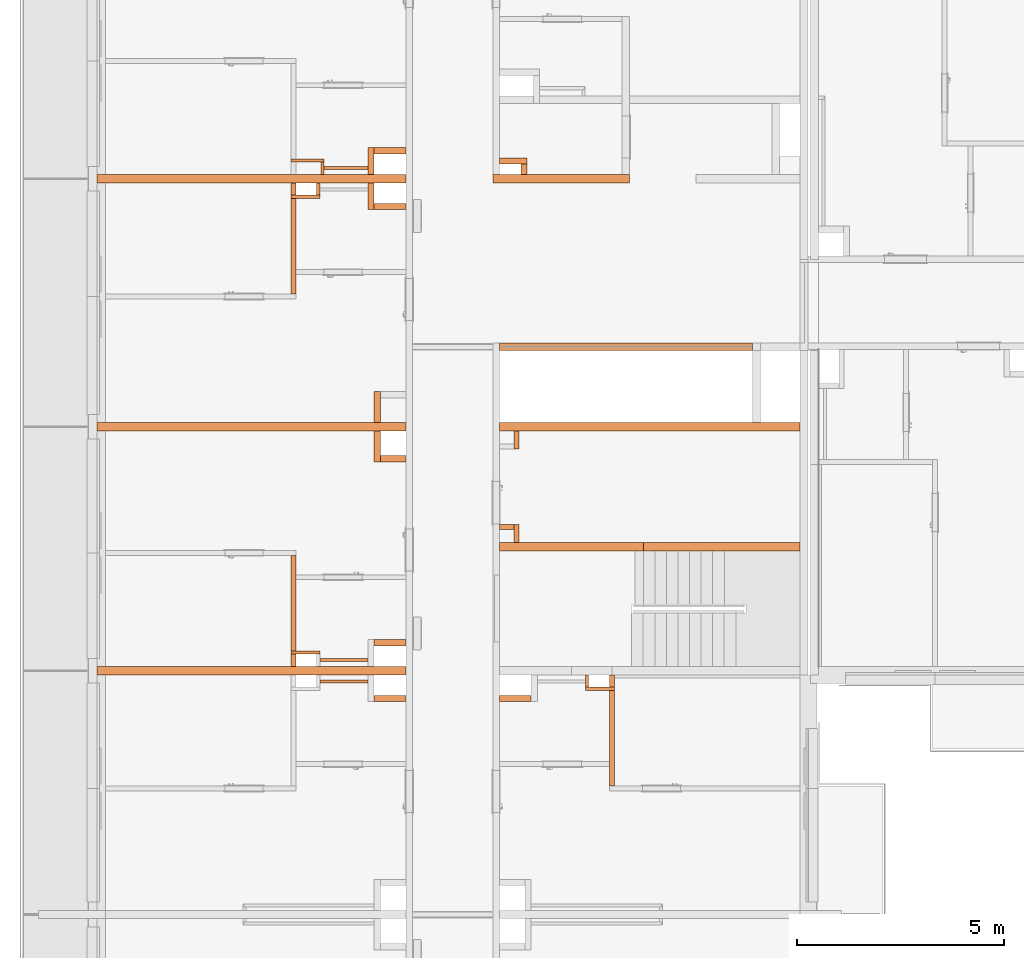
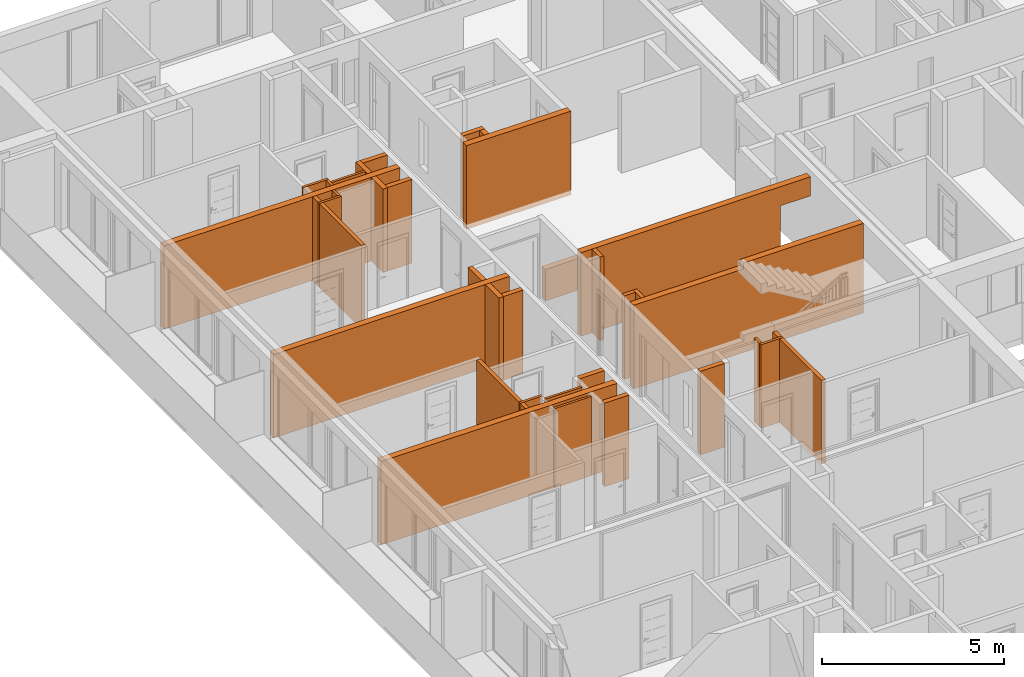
# One storey, part 54 of 66: 35 proxies, 1 opening.
"""IFC2X3 building model written with IfcOpenShell, lengths in millimetres."""

from ifc_helpers import new_model, entity, si_unit, converted_unit, derived_unit, money_unit, direction, frame, origin_with_axes, origin_2d_with_axis, place, context, subcontext, project, spatial, rectangle, extrude, faceted_brep, material, material_list, type_object, element, save


model = new_model("IFC2X3")

# Units and contexts
model_context = context("Model", 3, precision=0.01, world=origin_with_axes(), true_north=direction((0.34421633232, 0.938890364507)))
body_context = subcontext(model_context, "Body", "Model", "MODEL_VIEW")
ifc_project = project(units=[si_unit("LENGTHUNIT", "METRE", prefix="MILLI"), si_unit("AREAUNIT", "SQUARE_METRE"), si_unit("VOLUMEUNIT", "CUBIC_METRE"), converted_unit("PLANEANGLEUNIT", "DEGREE", entity("IfcPlaneAngleMeasure", 0.0174532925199), si_unit("PLANEANGLEUNIT", "RADIAN"), dimensions=[0, 0, 0, 0, 0, 0, 0]), si_unit("SOLIDANGLEUNIT", "STERADIAN"), money_unit("USD"), converted_unit("TIMEUNIT", "Year", entity("IfcTimeMeasure", 31556926.0), si_unit("TIMEUNIT", "SECOND"), dimensions=[0, 0, 1, 0, 0, 0, 0]), si_unit("MASSUNIT", "GRAM", prefix="KILO"), si_unit("THERMODYNAMICTEMPERATUREUNIT", "DEGREE_CELSIUS"), si_unit("LUMINOUSINTENSITYUNIT", "LUMEN"), si_unit("ENERGYUNIT", "JOULE", prefix="MEGA"), derived_unit("THERMALCONDUCTANCEUNIT", [(si_unit("POWERUNIT", "WATT"), 1), (si_unit("LENGTHUNIT", "METRE"), -1), (si_unit("THERMODYNAMICTEMPERATUREUNIT", "KELVIN"), -1)]), derived_unit("SPECIFICHEATCAPACITYUNIT", [(si_unit("ENERGYUNIT", "JOULE"), 1), (si_unit("MASSUNIT", "GRAM", prefix="KILO"), -1), (si_unit("THERMODYNAMICTEMPERATUREUNIT", "KELVIN"), -1)]), derived_unit("MASSDENSITYUNIT", [(si_unit("MASSUNIT", "GRAM", prefix="KILO"), 1), (si_unit("VOLUMEUNIT", "CUBIC_METRE"), -1)])], contexts=[model_context])

# Site, building, storey
site_placement = place(None, origin_with_axes())
site = spatial("IfcSite", under=ifc_project, at=site_placement, Name="USTRONIE MORSKIE", CompositionType="ELEMENT")
building_placement = place(site_placement, origin_with_axes())
building = spatial("IfcBuilding", under=site, at=building_placement, Name="Budynek", CompositionType="ELEMENT")
storey_placement = place(building_placement, frame((0.0, 0.0, 10000.0), z_axis=(0.0, 0.0, 1.0), x_axis=(1.0, 0.0, 0.0)))
storey = spatial("IfcBuildingStorey", under=building, at=storey_placement, Name="PIĘTRO 3", CompositionType="ELEMENT", Elevation=10000.0)

# Proxies
ifc_material_1 = material(Name="Bloczki silikatowe")
building_element_proxy_type_1 = type_object("IfcBuildingElementProxyType", Name="Bloczki silikatowe 120", PredefinedType="NOTDEFINED")
proxy_1_placement = place(storey_placement, frame((354717.920919, 738801.199036, -160.0), z_axis=(0.0, 0.0, 1.0), x_axis=(0.0, -1.0, 0.0)))
element("IfcBuildingElementProxy", 1, at=proxy_1_placement, inside=storey, type_object=building_element_proxy_type_1, material=ifc_material_1, Name="SW-04", context=body_context, shape_type="Brep", body=[
    faceted_brep([(400.000482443, 60.0, 0.0), (100.000390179, 60.0, 0.0), (100.000390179, 60.0, 2800.0), (400.000482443, 60.0, 2800.0), (400.000482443, -60.0, 0.0), (100.000390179, -60.0, 0.0), (100.000390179, -60.0, 2800.0), (400.000482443, -60.0, 2800.0)], [[[0, 1, 2, 3]], [[4, 5, 1, 0]], [[5, 6, 2, 1]], [[3, 2, 6, 7]], [[4, 0, 3, 7]], [[7, 6, 5, 4]]]),
    faceted_brep([(480.000482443, 60.0, 2800.0), (480.000482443, -60.0, 2800.0), (2790.01935038, -60.0, 2800.0), (2790.01935038, 60.0, 2800.0), (480.000482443, 60.0, 0.0), (480.000482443, -60.0, 0.0), (2790.01935038, -60.0, 0.0), (2790.01935038, 60.0, 0.0)], [[[0, 1, 2, 3]], [[1, 0, 4, 5]], [[1, 5, 6, 2]], [[7, 3, 2, 6]], [[4, 0, 3, 7]], [[5, 4, 7, 6]]]),
])
proxy_2_placement = place(storey_placement, frame((362417.920919, 726901.199036, -160.0), z_axis=(0.0, 0.0, 1.0), x_axis=(0.0, -1.0, 0.0)))
element("IfcBuildingElementProxy", 2, at=proxy_2_placement, inside=storey, type_object=building_element_proxy_type_1, material=ifc_material_1, Name="SW-04", context=body_context, shape_type="Brep", body=[
    faceted_brep([(400.000482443, 60.0, 0.0), (99.9999999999, 60.0, 0.0), (99.9999999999, 60.0, 2800.0), (400.000482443, 60.0, 2800.0), (99.9999999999, -60.0, 0.0), (99.9999999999, 0.0, 0.0), (400.000482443, -60.0, 0.0), (99.9999999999, 0.0, 2800.0), (99.9999999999, -60.0, 2800.0), (400.000482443, -60.0, 2800.0)], [[[0, 1, 2, 3]], [[4, 5, 1, 0, 6]], [[5, 7, 2, 1]], [[2, 7, 8, 9, 3]], [[6, 0, 3, 9]], [[4, 8, 7, 5]], [[9, 8, 4, 6]]]),
    faceted_brep([(480.000482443, 60.0, 0.0), (480.000482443, 60.0, 2800.0), (2790.01935038, 60.0, 2800.0), (2790.01935038, 60.0, 0.0), (480.000482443, -60.0, 2800.0), (480.000482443, -60.0, 0.0), (2790.01935038, -60.0, 2800.0), (2790.01935038, -60.0, 0.0)], [[[0, 1, 2, 3]], [[4, 1, 0, 5]], [[1, 4, 6, 2]], [[3, 2, 6, 7]], [[5, 0, 3, 7]], [[4, 5, 7, 6]]]),
])
proxy_3_placement = place(storey_placement, frame((354717.920919, 726901.199036, -160.0), z_axis=(0.0, 0.0, 1.0), x_axis=(0.0, 1.0, 0.0)))
element("IfcBuildingElementProxy", 3, at=proxy_3_placement, inside=storey, type_object=building_element_proxy_type_1, material=ifc_material_1, Name="SW-04", context=body_context, shape_type="Brep", body=[
    faceted_brep([(2790.01935038, 60.0, 0.0), (2790.01935038, -60.0, 0.0), (480.000482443, -60.0, 0.0), (480.000482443, 60.0, 0.0), (2790.01935038, 60.0, 2800.0), (2790.01935038, -60.0, 2800.0), (480.000482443, -60.0, 2800.0), (480.000482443, 60.0, 2800.0)], [[[0, 1, 2, 3]], [[1, 0, 4, 5]], [[1, 5, 6, 2]], [[7, 3, 2, 6]], [[4, 0, 3, 7]], [[5, 4, 7, 6]]]),
    faceted_brep([(400.000482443, 60.0, 0.0), (400.000482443, -60.0, 0.0), (99.9999999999, -60.0, 0.0), (99.9999999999, 60.0, 0.0), (400.000482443, 60.0, 2800.0), (400.000482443, -60.0, 2800.0), (99.9999999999, -60.0, 2800.0), (99.9999999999, 60.0, 2800.0)], [[[0, 1, 2, 3]], [[1, 0, 4, 5]], [[1, 5, 6, 2]], [[7, 3, 2, 6]], [[4, 0, 3, 7]], [[5, 4, 7, 6]]]),
])
proxy_4_placement = place(storey_placement, frame((360047.920919, 730321.199036, -160.0), z_axis=(0.0, 0.0, 1.0), x_axis=(-1.0, 0.0, 0.0)))
element("IfcBuildingElementProxy", 4, at=proxy_4_placement, inside=storey, type_object=building_element_proxy_type_1, material=ifc_material_1, Name="SW-04", context=body_context, shape_type="Brep", body=[
    faceted_brep([(350.0, -120.0, 2800.0), (350.0, 0.0, 2800.0), (0.0, 0.0, 2800.0), (0.0, -120.0, 2800.0), (350.0, -120.0, 0.0), (350.0, 0.0, 0.0), (0.0, 0.0, 0.0), (0.0, -120.0, 0.0)], [[[0, 1, 2, 3]], [[1, 0, 4, 5]], [[1, 5, 6, 2]], [[7, 3, 2, 6]], [[4, 0, 3, 7]], [[5, 4, 7, 6]]]),
])
proxy_5_placement = place(storey_placement, frame((360047.920919, 729901.198865, -160.0), z_axis=(0.0, 0.0, 1.0), x_axis=(0.0, 1.0, 0.0)))
element("IfcBuildingElementProxy", 5, at=proxy_5_placement, inside=storey, type_object=building_element_proxy_type_1, material=ifc_material_1, Name="SW-04", context=body_context, shape_type="Brep", body=[
    faceted_brep([(540.000171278, -120.0, 2800.0), (540.000171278, 0.0, 2800.0), (100.000152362, 0.0, 2800.0), (100.000147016, -120.0, 2800.0), (540.000171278, -120.0, 0.0), (540.000171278, 0.0, 0.0), (100.000152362, 0.0, 0.0), (100.000147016, -120.0, 0.0)], [[[0, 1, 2, 3]], [[1, 0, 4, 5]], [[1, 5, 6, 2]], [[7, 3, 2, 6]], [[4, 0, 3, 7]], [[5, 4, 7, 6]]]),
])
proxy_6_placement = place(storey_placement, frame((360047.920919, 732801.199169, -160.0), z_axis=(0.0, 0.0, 1.0), x_axis=(0.0, -1.0, 0.0)))
element("IfcBuildingElementProxy", 6, at=proxy_6_placement, inside=storey, type_object=building_element_proxy_type_1, material=ifc_material_1, Name="SW-04", context=body_context, shape_type="Brep", body=[
    faceted_brep([(540.000171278, 120.0, 0.0), (540.000171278, 0.0, 0.0), (100.000132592, 0.0, 0.0), (100.000132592, 120.0, 0.0), (540.000171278, 120.0, 2800.0), (540.000171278, 0.0, 2800.0), (100.000132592, 0.0, 2800.0), (100.000132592, 120.0, 2800.0)], [[[0, 1, 2, 3]], [[1, 0, 4, 5]], [[1, 5, 6, 2]], [[7, 3, 2, 6]], [[4, 0, 3, 7]], [[5, 4, 7, 6]]]),
])
building_element_proxy_type_2 = type_object("IfcBuildingElementProxyType", Name="Bloczki silikatowe 180", PredefinedType="NOTDEFINED")
proxy_7_placement = place(storey_placement, frame((365817.926125, 734741.198985, -160.0), z_axis=(0.0, 0.0, 1.0), x_axis=(-1.0, 0.0, 0.0)))
element("IfcBuildingElementProxy", 7, at=proxy_7_placement, inside=storey, type_object=building_element_proxy_type_2, material=ifc_material_1, Name="SW-02", context=body_context, shape_type="Brep", body=[
    faceted_brep([(6120.00520575, 90.0, 0.0), (6120.00520575, -90.0, 0.0), (0.0, -90.0, 0.0), (0.0, 90.0, 0.0), (6120.00520575, 90.0, 1060.0), (6120.00520575, -90.0, 1060.0), (0.0, -90.0, 1060.0), (0.0, 90.0, 1060.0)], [[[0, 1, 2, 3]], [[1, 0, 4, 5]], [[1, 5, 6, 2]], [[7, 3, 2, 6]], [[4, 0, 3, 7]], [[5, 4, 7, 6]]]),
])
ifc_material_2 = material(Name="Płyta GK")
ifc_material_3 = material(Name="-Pustka powietrzna")
ifc_material_list_1 = material_list([ifc_material_2, ifc_material_2, ifc_material_3])
building_element_proxy_type_3 = type_object("IfcBuildingElementProxyType", Name="330-SD GK 2-warstwy 75", PredefinedType="NOTDEFINED")
proxy_8_placement = place(storey_placement, frame((355417.920919, 739071.20032, -180.0), z_axis=(0.0, 0.0, 1.0), x_axis=(1.0, 0.0, 0.0)))
element("IfcBuildingElementProxy", 8, at=proxy_8_placement, inside=storey, type_object=building_element_proxy_type_3, material=ifc_material_list_1, Name="Ściana-009", context=body_context, shape_type="Brep", body=[
    faceted_brep([(1099.99909883, 12.5, 165.0), (1099.99909883, 25.0, 165.0), (1099.99909883, 25.0, 2820.0), (1099.99909883, 12.5, 2820.0), (40.0, 25.0, 165.0), (40.0, 12.5, 165.0), (40.0, 25.0, 2820.0), (40.0, 12.5, 2820.0)], [[[0, 1, 2, 3]], [[4, 1, 0, 5]], [[1, 4, 6, 2]], [[2, 6, 7, 3]], [[5, 0, 3, 7]], [[4, 5, 7, 6]]]),
    faceted_brep([(1099.99909883, 0.0, 165.0), (1099.99909883, 12.5, 165.0), (1099.99909883, 12.5, 2820.0), (1099.99909883, 0.0, 2820.0), (40.0, 12.5, 165.0), (40.0, 0.0, 165.0), (40.0, 12.5, 2820.0), (40.0, 0.0, 2820.0)], [[[0, 1, 2, 3]], [[4, 1, 0, 5]], [[1, 4, 6, 2]], [[2, 6, 7, 3]], [[5, 0, 3, 7]], [[4, 5, 7, 6]]]),
    faceted_brep([(1099.99909883, -50.0, 180.0), (1099.99909883, 0.0, 180.0), (1099.99909883, 0.0, 2820.0), (1099.99909883, -50.0, 2820.0), (40.0, 0.0, 180.0), (40.0, -50.0, 180.0), (40.0, 0.0, 2820.0), (40.0, -50.0, 2820.0)], [[[0, 1, 2, 3]], [[4, 1, 0, 5]], [[1, 4, 6, 2]], [[2, 6, 7, 3]], [[5, 0, 3, 7]], [[4, 5, 7, 6]]]),
])
ifc_material_list_2 = material_list([ifc_material_3, ifc_material_2, ifc_material_2])
proxy_9_placement = place(storey_placement, frame((355317.920919, 726631.200807, -180.0), z_axis=(0.0, 0.0, 1.0), x_axis=(1.0, 0.0, 0.0)))
element("IfcBuildingElementProxy", 9, at=proxy_9_placement, inside=storey, type_object=building_element_proxy_type_3, material=ifc_material_list_2, Name="Ściana-009", context=body_context, shape_type="Brep", body=[
    faceted_brep([(1199.99909883, 0.0, 180.0), (1199.99909883, 50.0, 180.0), (1199.99909883, 50.0, 2820.0), (1199.99909883, 0.0, 2820.0), (40.0, 50.0, 180.0), (40.0, 0.0, 180.0), (40.0, 50.0, 2820.0), (40.0, 0.0, 2820.0)], [[[0, 1, 2, 3]], [[4, 1, 0, 5]], [[1, 4, 6, 2]], [[2, 6, 7, 3]], [[5, 0, 3, 7]], [[4, 5, 7, 6]]]),
    faceted_brep([(1199.99909883, -12.5, 165.0), (1199.99909883, 0.0, 165.0), (1199.99909883, 0.0, 2820.0), (1199.99909883, -12.5, 2820.0), (40.0, 0.0, 165.0), (40.0, -12.5, 165.0), (40.0, 0.0, 2820.0), (40.0, -12.5, 2820.0)], [[[0, 1, 2, 3]], [[4, 1, 0, 5]], [[1, 4, 6, 2]], [[2, 6, 7, 3]], [[5, 0, 3, 7]], [[4, 5, 7, 6]]]),
    faceted_brep([(1199.99909883, -25.0, 165.0), (1199.99909883, -12.5, 165.0), (1199.99909883, -12.5, 2820.0), (1199.99909883, -25.0, 2820.0), (40.0, -12.5, 165.0), (40.0, -25.0, 165.0), (40.0, -12.5, 2820.0), (40.0, -25.0, 2820.0)], [[[0, 1, 2, 3]], [[4, 1, 0, 5]], [[1, 4, 6, 2]], [[2, 6, 7, 3]], [[5, 0, 3, 7]], [[4, 5, 7, 6]]]),
])
proxy_10_placement = place(storey_placement, frame((355317.920919, 727171.200737, -180.0), z_axis=(0.0, 0.0, 1.0), x_axis=(1.0, 0.0, 0.0)))
element("IfcBuildingElementProxy", 10, at=proxy_10_placement, inside=storey, type_object=building_element_proxy_type_3, material=ifc_material_list_1, Name="Ściana-009", context=body_context, shape_type="Brep", body=[
    faceted_brep([(1199.99909883, 12.5, 165.0), (1199.99909883, 25.0, 165.0), (1199.99909883, 25.0, 2820.0), (1199.99909883, 12.5, 2820.0), (40.0, 25.0, 165.0), (40.0, 12.5, 165.0), (40.0, 25.0, 2820.0), (40.0, 12.5, 2820.0)], [[[0, 1, 2, 3]], [[4, 1, 0, 5]], [[1, 4, 6, 2]], [[2, 6, 7, 3]], [[5, 0, 3, 7]], [[4, 5, 7, 6]]]),
    faceted_brep([(1199.99909883, 0.0, 165.0), (1199.99909883, 12.5, 165.0), (1199.99909883, 12.5, 2820.0), (1199.99909883, 0.0, 2820.0), (40.0, 12.5, 165.0), (40.0, 0.0, 165.0), (40.0, 12.5, 2820.0), (40.0, 0.0, 2820.0)], [[[0, 1, 2, 3]], [[4, 1, 0, 5]], [[1, 4, 6, 2]], [[2, 6, 7, 3]], [[5, 0, 3, 7]], [[4, 5, 7, 6]]]),
    faceted_brep([(1199.99909883, -50.0, 180.0), (1199.99909883, 0.0, 180.0), (1199.99909883, 0.0, 2820.0), (1199.99909883, -50.0, 2820.0), (40.0, 0.0, 180.0), (40.0, -50.0, 180.0), (40.0, 0.0, 2820.0), (40.0, -50.0, 2820.0)], [[[0, 1, 2, 3]], [[4, 1, 0, 5]], [[1, 4, 6, 2]], [[2, 6, 7, 3]], [[5, 0, 3, 7]], [[4, 5, 7, 6]]]),
])
building_element_proxy_type_4 = type_object("IfcBuildingElementProxyType", Name="Bloczki silikatowe 80", PredefinedType="NOTDEFINED")
proxy_11_placement = place(storey_placement, frame((361817.920919, 726901.199036, -160.0), z_axis=(0.0, 0.0, 1.0), x_axis=(0.0, -1.0, 0.0)))
element("IfcBuildingElementProxy", 11, at=proxy_11_placement, inside=storey, type_object=building_element_proxy_type_4, material=ifc_material_1, Name="Ściana-010", context=body_context, shape_type="Brep", body=[
    faceted_brep([(400.000482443, 40.0, 0.0), (400.000482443, -40.0, 0.0), (100.0, -40.0, 0.0), (100.0, 40.0, 0.0), (400.000482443, 40.0, 2800.0), (400.000482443, -40.0, 2800.0), (100.0, -40.0, 2800.0), (100.0, 40.0, 2800.0)], [[[0, 1, 2, 3]], [[1, 0, 4, 5]], [[1, 5, 6, 2]], [[7, 3, 2, 6]], [[4, 0, 3, 7]], [[5, 4, 7, 6]]]),
])
proxy_12_placement = place(storey_placement, frame((354717.920919, 739241.218191, -160.0), z_axis=(0.0, 0.0, 1.0), x_axis=(1.0, 0.0, 0.0)))
element("IfcBuildingElementProxy", 12, at=proxy_12_placement, inside=storey, type_object=building_element_proxy_type_4, material=ifc_material_1, Name="Ściana-009", context=body_context, shape_type="Brep", body=[
    faceted_brep([(740.0, 40.0, 0.0), (740.0, -40.0, 0.0), (-60.0, -40.0, 0.0), (-60.0, 40.0, 0.0), (740.0, 40.0, 2800.0), (740.0, -40.0, 2800.0), (-60.0, -40.0, 2800.0), (-60.0, 40.0, 2800.0)], [[[0, 1, 2, 3]], [[1, 0, 4, 5]], [[1, 5, 6, 2]], [[7, 3, 2, 6]], [[4, 0, 3, 7]], [[5, 4, 7, 6]]]),
])
proxy_13_placement = place(storey_placement, frame((362417.920919, 726461.198554, -160.0), z_axis=(0.0, 0.0, 1.0), x_axis=(-1.0, 0.0, 0.0)))
element("IfcBuildingElementProxy", 13, at=proxy_13_placement, inside=storey, type_object=building_element_proxy_type_4, material=ifc_material_1, Name="Ściana-009", context=body_context, shape_type="Brep", body=[
    faceted_brep([(640.0, 40.0, 0.0), (640.0, -40.0, 0.0), (-60.0, -40.0, 0.0), (-60.0, 40.0, 0.0), (640.0, 40.0, 2800.0), (640.0, -40.0, 2800.0), (-60.0, -40.0, 2800.0), (-60.0, 40.0, 2800.0)], [[[0, 1, 2, 3]], [[1, 0, 4, 5]], [[1, 5, 6, 2]], [[7, 3, 2, 6]], [[4, 0, 3, 7]], [[5, 4, 7, 6]]]),
])
proxy_14_placement = place(storey_placement, frame((355317.920919, 738801.19863, -160.0), z_axis=(0.0, 0.0, 1.0), x_axis=(0.0, -1.0, 0.0)))
element("IfcBuildingElementProxy", 14, at=proxy_14_placement, inside=storey, type_object=building_element_proxy_type_4, material=ifc_material_1, Name="Ściana-010", context=body_context, shape_type="Brep", body=[
    faceted_brep([(400.000076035, -40.0, 2800.0), (400.000076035, 40.0, 2800.0), (99.9999997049, 40.0, 2800.0), (100.000000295, -40.0, 2800.0), (400.000076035, -40.0, 0.0), (400.000076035, 40.0, 0.0), (99.9999997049, 40.0, 0.0), (100.000000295, -40.0, 0.0)], [[[0, 1, 2, 3]], [[1, 0, 4, 5]], [[1, 5, 6, 2]], [[7, 3, 2, 6]], [[4, 0, 3, 7]], [[5, 4, 7, 6]]]),
])
proxy_15_placement = place(storey_placement, frame((355417.920919, 738801.19863, -160.0), z_axis=(0.0, 0.0, 1.0), x_axis=(0.0, 1.0, 0.0)))
element("IfcBuildingElementProxy", 15, at=proxy_15_placement, inside=storey, type_object=building_element_proxy_type_4, material=ifc_material_1, Name="Ściana-010", context=body_context, shape_type="Brep", body=[
    faceted_brep([(400.019561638, 40.0, 0.0), (400.019561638, -40.0, 0.0), (100.000001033, -40.0, 0.0), (100.000000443, 40.0, 0.0), (400.019561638, 40.0, 2800.0), (400.019561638, -40.0, 2800.0), (100.000001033, -40.0, 2800.0), (100.000000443, 40.0, 2800.0)], [[[0, 1, 2, 3]], [[1, 0, 4, 5]], [[1, 5, 6, 2]], [[7, 3, 2, 6]], [[4, 0, 3, 7]], [[5, 4, 7, 6]]]),
])
proxy_16_placement = place(storey_placement, frame((354717.920919, 738361.198554, -160.0), z_axis=(0.0, 0.0, 1.0), x_axis=(1.0, 0.0, 0.0)))
element("IfcBuildingElementProxy", 16, at=proxy_16_placement, inside=storey, type_object=building_element_proxy_type_4, material=ifc_material_1, Name="Ściana-009", context=body_context, shape_type="Brep", body=[
    faceted_brep([(640.0, -40.0, 2800.0), (640.0, 40.0, 2800.0), (-60.0, 40.0, 2800.0), (-60.0, -40.0, 2800.0), (640.0, -40.0, 0.0), (640.0, 40.0, 0.0), (-60.0, 40.0, 0.0), (-60.0, -40.0, 0.0)], [[[0, 1, 2, 3]], [[1, 0, 4, 5]], [[1, 5, 6, 2]], [[7, 3, 2, 6]], [[4, 0, 3, 7]], [[5, 4, 7, 6]]]),
])
proxy_17_placement = place(storey_placement, frame((354717.920919, 727341.199519, -160.0), z_axis=(0.0, 0.0, 1.0), x_axis=(1.0, 0.0, 0.0)))
element("IfcBuildingElementProxy", 17, at=proxy_17_placement, inside=storey, type_object=building_element_proxy_type_4, material=ifc_material_1, Name="Ściana-009", context=body_context, shape_type="Brep", body=[
    faceted_brep([(640.0, 40.0, 0.0), (640.0, -40.0, 0.0), (-60.0, -40.0, 0.0), (-60.0, 40.0, 0.0), (640.0, 40.0, 2800.0), (640.0, -40.0, 2800.0), (-60.0, -40.0, 2800.0), (-60.0, 40.0, 2800.0)], [[[0, 1, 2, 3]], [[1, 0, 4, 5]], [[1, 5, 6, 2]], [[7, 3, 2, 6]], [[4, 0, 3, 7]], [[5, 4, 7, 6]]]),
])
building_element_proxy_type_5 = type_object("IfcBuildingElementProxyType", Name="Bloczki silikatowe 150", PredefinedType="NOTDEFINED")
proxy_18_placement = place(storey_placement, frame((356817.920919, 732801.198998, -160.0), z_axis=(0.0, 0.0, 1.0), x_axis=(8.57216283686e-05, 0.999999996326, 0.0)))
element("IfcBuildingElementProxy", 18, at=proxy_18_placement, inside=storey, type_object=building_element_proxy_type_5, material=ifc_material_1, Name="Ściana-009", context=body_context, shape_type="Brep", body=[
    faceted_brep([(849.987177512, 150.06, 0.0), (850.0000409, 0.0, 0.0), (100.000038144, 0.0, 0.0), (99.9871747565, 150.06, 0.0), (849.987177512, 150.06, 2800.0), (850.0000409, 0.0, 2800.0), (100.000038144, 0.0, 2800.0), (99.9871747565, 150.06, 2800.0)], [[[0, 1, 2, 3]], [[1, 0, 4, 5]], [[1, 5, 6, 2]], [[7, 3, 2, 6]], [[4, 0, 3, 7]], [[5, 4, 7, 6]]]),
])
proxy_19_placement = place(storey_placement, frame((356592.920018, 738801.198641, -160.0), z_axis=(0.0, 0.0, 1.0), x_axis=(0.0, -1.0, 0.0)))
element("IfcBuildingElementProxy", 19, at=proxy_19_placement, inside=storey, type_object=building_element_proxy_type_5, material=ifc_material_1, Name="SW-03", context=body_context, shape_type="Brep", body=[
    faceted_brep([(750.000879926, -75.0, 2800.0), (750.000879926, 75.0, 2800.0), (100.000001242, 75.0, 2800.0), (100.000002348, -75.0, 2800.0), (750.000879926, -75.0, 0.0), (750.000879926, 75.0, 0.0), (100.000001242, 75.0, 0.0), (100.000002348, -75.0, 0.0)], [[[0, 1, 2, 3]], [[1, 0, 4, 5]], [[1, 5, 6, 2]], [[7, 3, 2, 6]], [[4, 0, 3, 7]], [[5, 4, 7, 6]]]),
])
for number, where, z_axis, x_axis, name in (
    (20, (356592.920018, 726226.198151, -160.0), (0.0, 0.0, 1.0), (1.0, 0.0, 0.0), "SW-03"),
    (21, (356592.920018, 738126.197761, -160.0), (0.0, 0.0, 1.0), (1.0, 0.0, 0.0), "SW-03"),
):
    element("IfcBuildingElementProxy", number, at=place(storey_placement, frame(where, z_axis=z_axis, x_axis=x_axis)), inside=storey, type_object=building_element_proxy_type_5, material=ifc_material_1, Name=name, context=body_context, shape_type="Brep", body=[
        faceted_brep([(845.00090117, -75.0, 2800.0), (845.00090117, 75.0, 2800.0), (75.0, 75.0, 2800.0), (75.0, -75.0, 2800.0), (845.00090117, -75.0, 0.0), (845.00090117, 75.0, 0.0), (75.0, 75.0, 0.0), (75.0, -75.0, 0.0)], [[[0, 1, 2, 3]], [[1, 0, 4, 5]], [[1, 5, 6, 2]], [[7, 3, 2, 6]], [[4, 0, 3, 7]], [[5, 4, 7, 6]]]),
    ])
for number, where, z_axis, x_axis, name in (
    (22, (356592.920018, 727576.199909, -160.0), (0.0, 0.0, 1.0), (1.0, 0.0, 0.0), "SW-03"),
    (23, (356592.920018, 739476.199519, -160.0), (0.0, 0.0, 1.0), (1.0, 0.0, 0.0), "SW-03"),
):
    element("IfcBuildingElementProxy", number, at=place(storey_placement, frame(where, z_axis=z_axis, x_axis=x_axis)), inside=storey, type_object=building_element_proxy_type_5, material=ifc_material_1, Name=name, context=body_context, shape_type="Brep", body=[
        faceted_brep([(845.00090117, 75.0, 0.0), (845.00090117, -75.0, 0.0), (75.0, -75.0, 0.0), (75.0, 75.0, 0.0), (845.00090117, 75.0, 2800.0), (845.00090117, -75.0, 2800.0), (75.0, -75.0, 2800.0), (75.0, 75.0, 2800.0)], [[[0, 1, 2, 3]], [[1, 0, 4, 5]], [[1, 5, 6, 2]], [[7, 3, 2, 6]], [[4, 0, 3, 7]], [[5, 4, 7, 6]]]),
    ])
proxy_20_placement = place(storey_placement, frame((356592.920018, 738801.198639, -160.0), z_axis=(0.0, 0.0, 1.0), x_axis=(0.0, 1.0, 0.0)))
element("IfcBuildingElementProxy", 24, at=proxy_20_placement, inside=storey, type_object=building_element_proxy_type_5, material=ifc_material_1, Name="SW-03", context=body_context, shape_type="Brep", body=[
    faceted_brep([(750.000879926, 75.0, 2800.0), (100.000007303, 75.0, 2800.0), (100.000007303, -75.0, 2800.0), (750.000879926, -75.0, 2800.0), (750.000879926, 75.0, 0.0), (100.000007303, 75.0, 0.0), (100.000007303, -75.0, 0.0), (750.000879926, -75.0, 0.0)], [[[0, 1, 2, 3]], [[4, 5, 1, 0]], [[5, 6, 2, 1]], [[3, 2, 6, 7]], [[0, 3, 7, 4]], [[7, 6, 5, 4]]]),
])
proxy_21_placement = place(storey_placement, frame((356817.920919, 732801.199074, -160.0), z_axis=(0.0, 0.0, 1.0), x_axis=(0.0, -1.0, 0.0)))
element("IfcBuildingElementProxy", 25, at=proxy_21_placement, inside=storey, type_object=building_element_proxy_type_5, material=ifc_material_1, Name="Ściana-009", context=body_context, shape_type="Brep", body=[
    faceted_brep([(850.060037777, 0.0, 0.0), (100.000037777, 0.00676761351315, 0.0), (100.000037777, 0.00676761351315, 2800.0), (850.060037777, 0.0, 2800.0), (850.060037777, -150.06, 0.0), (100.000037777, -150.053232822, 0.0), (100.000037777, -150.053232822, 2800.0), (850.060037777, -150.06, 2800.0)], [[[0, 1, 2, 3]], [[4, 5, 1, 0]], [[5, 6, 2, 1]], [[3, 2, 6, 7]], [[0, 3, 7, 4]], [[7, 6, 5, 4]]]),
])
proxy_22_placement = place(storey_placement, frame((360542.92182, 726226.197058, -160.0), z_axis=(0.0, 0.0, 1.0), x_axis=(-1.0, 0.0, 0.0)))
element("IfcBuildingElementProxy", 26, at=proxy_22_placement, inside=storey, type_object=building_element_proxy_type_5, material=ifc_material_1, Name="SW-03", context=body_context, shape_type="Brep", body=[
    faceted_brep([(845.00090117, 75.0, 0.0), (845.00090117, -75.0, 0.0), (75.0, -75.0, 0.0), (75.0, 75.0, 0.0), (845.00090117, 75.0, 2800.0), (845.00090117, -75.0, 2800.0), (75.0, -75.0, 2800.0), (75.0, 75.0, 2800.0)], [[[0, 1, 2, 3]], [[1, 0, 4, 5]], [[1, 5, 6, 2]], [[7, 3, 2, 6]], [[4, 0, 3, 7]], [[5, 4, 7, 6]]]),
])
proxy_23_placement = place(storey_placement, frame((356817.920919, 732101.199036, -160.0), z_axis=(0.0, 0.0, 1.0), x_axis=(1.0, 0.0, 0.0)))
element("IfcBuildingElementProxy", 27, at=proxy_23_placement, inside=storey, type_object=building_element_proxy_type_5, material=ifc_material_1, Name="Ściana-010", context=body_context, shape_type="Brep", body=[
    faceted_brep([(620.0, -150.06, 2800.0), (620.0, 0.0, 2800.0), (0.0, 0.0, 2800.0), (0.0, -150.06, 2800.0), (620.0, -150.06, 0.0), (620.0, 0.0, 0.0), (0.0, 0.0, 0.0), (0.0, -150.06, 0.0)], [[[0, 1, 2, 3]], [[1, 0, 4, 5]], [[1, 5, 6, 2]], [[7, 3, 2, 6]], [[4, 0, 3, 7]], [[5, 4, 7, 6]]]),
])
proxy_24_placement = place(storey_placement, frame((360292.922714, 739226.199036, -160.0), z_axis=(0.0, 0.0, 1.0), x_axis=(-1.0, 0.0, 0.0)))
element("IfcBuildingElementProxy", 28, at=proxy_24_placement, inside=storey, type_object=building_element_proxy_type_5, material=ifc_material_1, Name="SW-03", context=body_context, shape_type="Brep", body=[
    faceted_brep([(595.001816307, -75.0, 2800.0), (595.001816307, 75.0, 2800.0), (-75.0, 75.0, 2800.0), (-75.0, -75.0, 2800.0), (595.001816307, -75.0, 0.0), (595.001816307, 75.0, 0.0), (-75.0, 75.0, 0.0), (-75.0, -75.0, 0.0)], [[[0, 1, 2, 3]], [[1, 0, 4, 5]], [[1, 5, 6, 2]], [[7, 3, 2, 6]], [[4, 0, 3, 7]], [[5, 4, 7, 6]]]),
])
proxy_25_placement = place(storey_placement, frame((360292.922714, 738801.199036, -160.0), z_axis=(0.0, 0.0, 1.0), x_axis=(0.0, 1.0, 0.0)))
element("IfcBuildingElementProxy", 29, at=proxy_25_placement, inside=storey, type_object=building_element_proxy_type_5, material=ifc_material_1, Name="SW-03", context=body_context, shape_type="Brep", body=[
    faceted_brep([(350.0, -75.0, 2800.0), (350.0, 75.0, 2800.0), (100.0, 75.0, 2800.0), (100.0, -75.0, 2800.0), (350.0, -75.0, 0.0), (350.0, 75.0, 0.0), (100.0, 75.0, 0.0), (100.0, -75.0, 0.0)], [[[0, 1, 2, 3]], [[1, 0, 4, 5]], [[1, 5, 6, 2]], [[7, 3, 2, 6]], [[4, 0, 3, 7]], [[5, 4, 7, 6]]]),
])
ifc_material_4 = material(Name="Beton konstrukcyjny B25")
building_element_proxy_type_6 = type_object("IfcBuildingElementProxyType", Name="Beton konstrukcyjny B25 200", PredefinedType="NOTDEFINED")
proxy_26_placement = place(storey_placement, frame((367067.920919, 729901.198705, -160.0), z_axis=(0.0, 0.0, 1.0), x_axis=(-1.0, 4.45503924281e-08, 0.0)))
element("IfcBuildingElementProxy", 30, at=proxy_26_placement, inside=storey, type_object=building_element_proxy_type_6, material=ifc_material_4, Name="SW-01", context=body_context, shape_type="Brep", body=[
    faceted_brep([(7370.00000446, -99.9996716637, 0.0), (7370.00000446, -99.9996716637, 2800.0), (3890.00000446, -100.000115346, 2800.0), (3890.00000446, -100.000115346, 3000.0), (100.000401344, -99.999995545, 3000.0), (100.000401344, -99.999995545, 0.0), (7369.99999554, 100.000328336, 0.0), (7369.99999554, 100.000328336, 2800.0), (3889.99999554, 100.000173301, 2800.0), (3889.99999554, 100.000173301, 3000.0), (100.000404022, 100.000004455, 3000.0), (100.000404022, 100.000004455, 0.0)], [[[0, 1, 2, 3, 4, 5]], [[6, 7, 1, 0]], [[8, 2, 1, 7]], [[8, 9, 3, 2]], [[4, 3, 9, 10]], [[10, 11, 5, 4]], [[5, 11, 6, 0]], [[9, 8, 7, 6, 11, 10]]]),
])
proxy_27_placement = place(storey_placement, frame((357517.920919, 738801.198646, -160.0), z_axis=(0.0, 0.0, 1.0), x_axis=(-1.0, -7.37678029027e-09, 0.0)))
element("IfcBuildingElementProxy", 31, at=proxy_27_placement, inside=storey, type_object=building_element_proxy_type_6, material=ifc_material_4, Name="SW-01", context=body_context, shape_type="Brep", body=[
    faceted_brep([(80.0000007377, 99.9999994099, 0.0), (7550.00000074, 99.9999443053, 0.0), (7549.99999926, -100.000055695, 0.0), (79.9999992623, -100.00000059, 0.0), (80.0000007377, 99.9999994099, 2800.0), (7550.00000074, 99.9999443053, 2800.0), (7549.99999926, -100.000055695, 2800.0), (79.9999992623, -100.00000059, 2800.0)], [[[0, 1, 2, 3]], [[4, 5, 1, 0]], [[6, 2, 1, 5]], [[3, 2, 6, 7]], [[7, 4, 0, 3]], [[7, 6, 5, 4]]]),
])

# Proxy, opening
proxy_28_placement = place(storey_placement, frame((367067.920684, 732801.199036, -160.0), z_axis=(0.0, 0.0, 1.0), x_axis=(-1.0, 0.0, 0.0)))
proxy_28 = element("IfcBuildingElementProxy", 32, at=proxy_28_placement, inside=storey, type_object=building_element_proxy_type_6, material=ifc_material_4, Name="SW-01", context=body_context, shape_type="Brep", body=[
    faceted_brep([(7369.99976534, -100.0, 0.0), (7369.99976534, -100.0, 2800.0), (99.9996528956, -100.0, 2800.0), (99.9999942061, -100.0, 0.0), (7369.99976534, 100.0, 0.0), (7369.99976534, 100.0, 2800.0), (99.9996528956, 100.0, 2800.0), (100.000005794, 100.0, 0.0)], [[[0, 1, 2, 3]], [[4, 5, 1, 0]], [[5, 6, 2, 1]], [[3, 2, 6, 7]], [[3, 7, 4, 0]], [[7, 6, 5, 4]]]),
])
opening_placement = place(proxy_28_placement, frame((575.001569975, 1.13686837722e-10, 160.0), z_axis=(0.0, 0.0, 1.0), x_axis=(1.0, 0.0, 0.0)))
element("IfcOpeningElement", 33, at=opening_placement, cuts=proxy_28, context=body_context, shape_type="SweptSolid", body=[
    extrude(rectangle(XDim=950.005444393, YDim=2000.0, at=origin_2d_with_axis()), frame((0.0, 100.0, 1000.0), z_axis=(0.0, -1.0, 0.0), x_axis=(1.0, 0.0, 0.0)), (0.0, 0.0, -1.0), 200.0),
    extrude(rectangle(XDim=950.005444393, YDim=2000.0, at=origin_2d_with_axis()), frame((0.0, 100.0, 1000.0), z_axis=(0.0, 1.0, 0.0), x_axis=(1.0, 0.0, 0.0)), (0.0, 0.0, -1.0), 200.0),
])

# Proxies
for number, where, z_axis, x_axis, name in (
    (34, (350067.920919, 726901.199036, -160.0), (0.0, 0.0, 1.0), (1.0, 0.0, 0.0), "SW-01"),
    (35, (350067.920919, 732801.199036, -160.0), (0.0, 0.0, 1.0), (1.0, 0.0, 0.0), "SW-01"),
):
    element("IfcBuildingElementProxy", number, at=place(storey_placement, frame(where, z_axis=z_axis, x_axis=x_axis)), inside=storey, type_object=building_element_proxy_type_6, material=ifc_material_4, Name=name, context=body_context, shape_type="Brep", body=[
        faceted_brep([(-100.0, -100.0, 2800.0), (7370.0, -100.0, 2800.0), (7370.0, 100.0, 2800.0), (-100.0, 100.0, 2800.0), (-100.0, -100.0, 0.0), (7370.0, -100.0, 0.0), (7370.0, 100.0, 0.0), (-100.0, 100.0, 0.0)], [[[0, 1, 2, 3]], [[4, 5, 1, 0]], [[6, 2, 1, 5]], [[3, 2, 6, 7]], [[7, 4, 0, 3]], [[7, 6, 5, 4]]]),
    ])
proxy_29_placement = place(storey_placement, frame((359617.920919, 738801.199036, -180.0), z_axis=(0.0, 0.0, 1.0), x_axis=(1.0, 0.0, 0.0)))
element("IfcBuildingElementProxy", 36, at=proxy_29_placement, inside=storey, type_object=building_element_proxy_type_6, material=ifc_material_4, Name="SW-01", context=body_context, shape_type="Brep", body=[
    faceted_brep([(3229.99995481, -100.0, 20.0), (3139.99995481, -100.0, 20.0), (3139.99995481, 100.0, 20.0), (3229.99995481, 100.0, 20.0), (0.0, -100.0, 20.0), (3229.99995481, -100.0, 2820.0), (-80.0000216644, -100.0, 2820.0), (-80.0000216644, -100.0, 20.0), (0.0, 100.0, 20.0), (-80.0000216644, 100.0, 20.0), (-80.0000216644, 100.0, 2820.0), (3229.99995481, 100.0, 2820.0)], [[[0, 1, 2, 3]], [[4, 1, 0, 5, 6, 7]], [[8, 2, 1, 4]], [[3, 2, 8, 9, 10, 11]], [[5, 0, 3, 11]], [[10, 6, 5, 11]], [[9, 7, 6, 10]], [[9, 8, 4, 7]]]),
])

save(model, "model.ifc")
